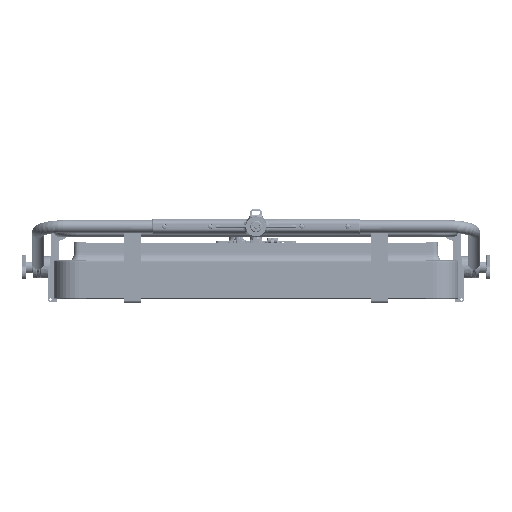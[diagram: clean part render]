
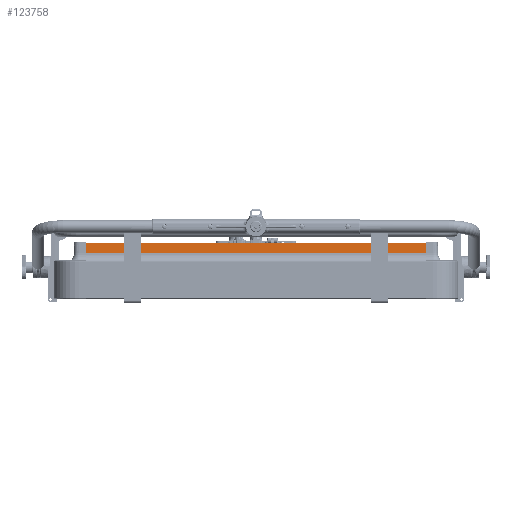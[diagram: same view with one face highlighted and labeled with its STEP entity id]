
A CAD part, front view. The second image highlights one B-rep face of the part: STEP entity #123758.
In plain terms, the highlighted planar face has unit normal (0, -1, 0.026).
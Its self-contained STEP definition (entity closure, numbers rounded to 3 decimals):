
#3584 = FACE_OUTER_BOUND ( 'NONE', #394185, .T. ) ;
#4546 = CARTESIAN_POINT ( 'NONE',  ( -407.5, -270.025, 57.982 ) ) ;
#51866 = LINE ( 'NONE', #140039, #392513 ) ;
#97503 = VERTEX_POINT ( 'NONE', #99282 ) ;
#99282 = CARTESIAN_POINT ( 'NONE',  ( -407.5, -270.67, 33.343 ) ) ;
#101988 = VERTEX_POINT ( 'NONE', #112270 ) ;
#103351 = DIRECTION ( 'NONE',  ( 0., 0.026, 1. ) ) ;
#103736 = VECTOR ( 'NONE', #103351, 1000. ) ;
#112270 = CARTESIAN_POINT ( 'NONE',  ( 407.5, -270.025, 57.982 ) ) ;
#112765 = DIRECTION ( 'NONE',  ( 1., 0., 0. ) ) ;
#115332 = DIRECTION ( 'NONE',  ( -1., 0., 0. ) ) ;
#123758 = ADVANCED_FACE ( 'NONE', ( #3584 ), #126506, .T. ) ;
#126236 = CARTESIAN_POINT ( 'NONE',  ( 407.5, -270.67, 33.343 ) ) ;
#126506 = PLANE ( 'NONE',  #397038 ) ;
#128518 = CARTESIAN_POINT ( 'NONE',  ( -500., -270., 58.943 ) ) ;
#136093 = CARTESIAN_POINT ( 'NONE',  ( 407.5, -270., 58.943 ) ) ;
#140039 = CARTESIAN_POINT ( 'NONE',  ( -500., -270.025, 57.982 ) ) ;
#143511 = CARTESIAN_POINT ( 'NONE',  ( -407.5, -270., 58.943 ) ) ;
#162787 = LINE ( 'NONE', #136093, #103736 ) ;
#178582 = EDGE_CURVE ( 'NONE', #101988, #333181, #51866, .T. ) ;
#203360 = VECTOR ( 'NONE', #362637, 1000. ) ;
#229931 = ORIENTED_EDGE ( 'NONE', *, *, #318880, .T. ) ;
#255439 = DIRECTION ( 'NONE',  ( 0., -1., 0.026 ) ) ;
#255564 = EDGE_CURVE ( 'NONE', #276933, #101988, #162787, .T. ) ;
#256719 = ORIENTED_EDGE ( 'NONE', *, *, #263329, .T. ) ;
#263329 = EDGE_CURVE ( 'NONE', #333181, #97503, #366661, .T. ) ;
#275375 = ORIENTED_EDGE ( 'NONE', *, *, #255564, .T. ) ;
#276933 = VERTEX_POINT ( 'NONE', #126236 ) ;
#278502 = CARTESIAN_POINT ( 'NONE',  ( -500., -270.67, 33.343 ) ) ;
#318880 = EDGE_CURVE ( 'NONE', #97503, #276933, #368691, .T. ) ;
#333181 = VERTEX_POINT ( 'NONE', #4546 ) ;
#339828 = ORIENTED_EDGE ( 'NONE', *, *, #178582, .T. ) ;
#362637 = DIRECTION ( 'NONE',  ( 0., -0.026, -1. ) ) ;
#366430 = VECTOR ( 'NONE', #112765, 1000. ) ;
#366661 = LINE ( 'NONE', #143511, #203360 ) ;
#368691 = LINE ( 'NONE', #278502, #366430 ) ;
#378353 = DIRECTION ( 'NONE',  ( 0., 0.026, 1. ) ) ;
#392513 = VECTOR ( 'NONE', #115332, 1000. ) ;
#394185 = EDGE_LOOP ( 'NONE', ( #339828, #256719, #229931, #275375 ) ) ;
#397038 = AXIS2_PLACEMENT_3D ( 'NONE', #128518, #255439, #378353 ) ;
